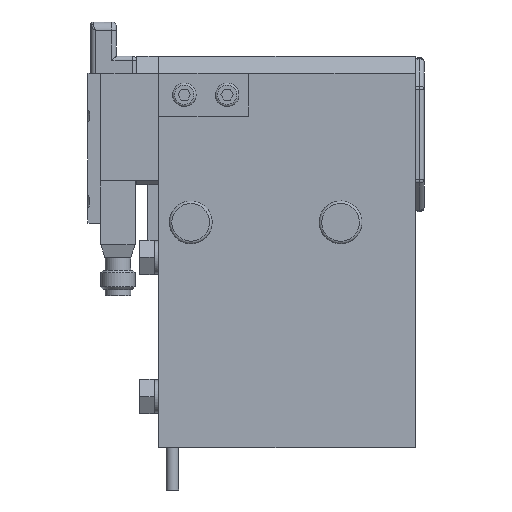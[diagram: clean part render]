
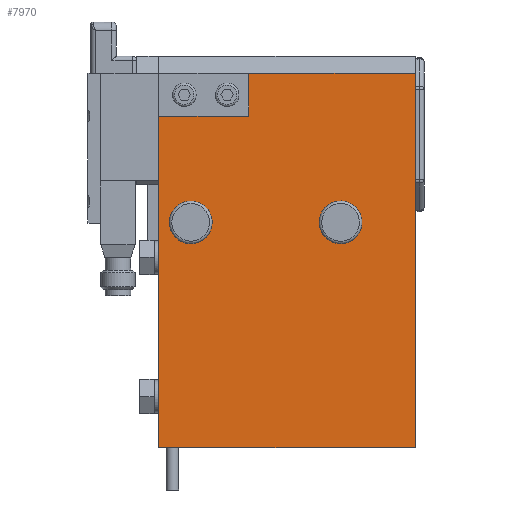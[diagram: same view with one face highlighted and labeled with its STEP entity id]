
A CAD part, front view. The second image highlights one B-rep face of the part: STEP entity #7970.
In plain terms, the highlighted planar face has unit normal (0, -1, 0).
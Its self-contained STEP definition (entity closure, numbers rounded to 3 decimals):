
#162=FACE_BOUND('',#1300,.T.);
#163=FACE_BOUND('',#1301,.T.);
#355=CIRCLE('',#8546,5.);
#356=CIRCLE('',#8547,5.);
#801=FACE_OUTER_BOUND('',#1299,.T.);
#1299=EDGE_LOOP('',(#5757,#5758,#5759,#5760,#5761,#5762,#5763));
#1300=EDGE_LOOP('',(#5764));
#1301=EDGE_LOOP('',(#5765));
#1956=LINE('',#12284,#2699);
#1957=LINE('',#12286,#2700);
#1958=LINE('',#12288,#2701);
#1959=LINE('',#12290,#2702);
#1960=LINE('',#12292,#2703);
#1961=LINE('',#12294,#2704);
#1962=LINE('',#12295,#2705);
#2699=VECTOR('',#9884,21.);
#2700=VECTOR('',#9885,15.);
#2701=VECTOR('',#9886,62.5);
#2702=VECTOR('',#9887,60.);
#2703=VECTOR('',#9888,87.5);
#2704=VECTOR('',#9889,39.);
#2705=VECTOR('',#9890,10.);
#3440=VERTEX_POINT('',#12282);
#3441=VERTEX_POINT('',#12283);
#3442=VERTEX_POINT('',#12285);
#3443=VERTEX_POINT('',#12287);
#3444=VERTEX_POINT('',#12289);
#3445=VERTEX_POINT('',#12291);
#3446=VERTEX_POINT('',#12293);
#3447=VERTEX_POINT('',#12296);
#3448=VERTEX_POINT('',#12298);
#4289=EDGE_CURVE('',#3440,#3441,#1956,.T.);
#4290=EDGE_CURVE('',#3440,#3442,#1957,.T.);
#4291=EDGE_CURVE('',#3442,#3443,#1958,.T.);
#4292=EDGE_CURVE('',#3443,#3444,#1959,.T.);
#4293=EDGE_CURVE('',#3444,#3445,#1960,.T.);
#4294=EDGE_CURVE('',#3445,#3446,#1961,.T.);
#4295=EDGE_CURVE('',#3441,#3446,#1962,.T.);
#4296=EDGE_CURVE('',#3447,#3447,#355,.T.);
#4297=EDGE_CURVE('',#3448,#3448,#356,.T.);
#5757=ORIENTED_EDGE('',*,*,#4289,.F.);
#5758=ORIENTED_EDGE('',*,*,#4290,.T.);
#5759=ORIENTED_EDGE('',*,*,#4291,.T.);
#5760=ORIENTED_EDGE('',*,*,#4292,.T.);
#5761=ORIENTED_EDGE('',*,*,#4293,.T.);
#5762=ORIENTED_EDGE('',*,*,#4294,.T.);
#5763=ORIENTED_EDGE('',*,*,#4295,.F.);
#5764=ORIENTED_EDGE('',*,*,#4296,.F.);
#5765=ORIENTED_EDGE('',*,*,#4297,.F.);
#7174=PLANE('',#8545);
#7970=ADVANCED_FACE('',(#801,#162,#163),#7174,.F.);
#8545=AXIS2_PLACEMENT_3D('',#12281,#9882,#9883);
#8546=AXIS2_PLACEMENT_3D('',#12297,#9891,#9892);
#8547=AXIS2_PLACEMENT_3D('',#12299,#9893,#9894);
#9882=DIRECTION('center_axis',(0.,1.,0.));
#9883=DIRECTION('ref_axis',(-1.,0.,0.));
#9884=DIRECTION('',(1.,0.,0.));
#9885=DIRECTION('',(0.,0.,-1.));
#9886=DIRECTION('',(0.,0.,-1.));
#9887=DIRECTION('',(1.,0.,0.));
#9888=DIRECTION('',(0.,0.,1.));
#9889=DIRECTION('',(-1.,0.,0.));
#9890=DIRECTION('',(0.,0.,1.));
#9891=DIRECTION('center_axis',(0.,-1.,0.));
#9892=DIRECTION('ref_axis',(0.716,0.,-0.698));
#9893=DIRECTION('center_axis',(0.,-1.,0.));
#9894=DIRECTION('ref_axis',(-0.954,0.,-0.299));
#12281=CARTESIAN_POINT('Origin',(0.,0.,
91.5));
#12282=CARTESIAN_POINT('',(0.,0.,77.5));
#12283=CARTESIAN_POINT('',(21.,0.,77.5));
#12284=CARTESIAN_POINT('',(0.,0.,77.5));
#12285=CARTESIAN_POINT('',(0.,0.,62.5));
#12286=CARTESIAN_POINT('',(0.,0.,77.5));
#12287=CARTESIAN_POINT('',(0.,0.,0.));
#12288=CARTESIAN_POINT('',(0.,0.,62.5));
#12289=CARTESIAN_POINT('',(60.,0.,0.));
#12290=CARTESIAN_POINT('',(0.,0.,0.));
#12291=CARTESIAN_POINT('',(60.,0.,87.5));
#12292=CARTESIAN_POINT('',(60.,0.,0.));
#12293=CARTESIAN_POINT('',(21.,0.,87.5));
#12294=CARTESIAN_POINT('',(60.,0.,87.5));
#12295=CARTESIAN_POINT('',(21.,0.,77.5));
#12296=CARTESIAN_POINT('',(3.919,0.,56.19));
#12297=CARTESIAN_POINT('Origin',(7.5,0.,
52.7));
#12298=CARTESIAN_POINT('',(47.271,0.,54.197));
#12299=CARTESIAN_POINT('Origin',(42.5,0.,
52.7));
